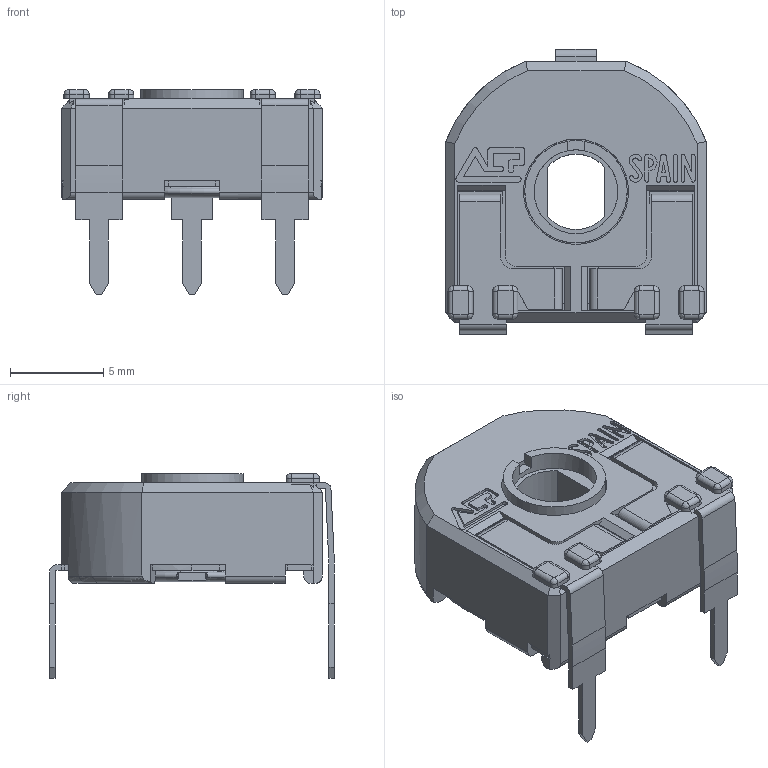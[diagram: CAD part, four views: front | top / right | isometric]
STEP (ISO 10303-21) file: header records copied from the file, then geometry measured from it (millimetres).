
FILE_DESCRIPTION(/* description */ (''),/* implementation_level */ '2;1');
FILE_NAME(/* name */ 'C:\Users\CEM\Desktop\ENVIAR\TRANSICION 3D CATALOGOS\CAR14ZV15.stp',/* time_stamp */ '2025-09-22T10:00:41+02:00',/* author */ ('CEM'),/* organization */ (''),/* preprocessor_version */ 'ST-DEVELOPER v17',/* originating_system */ 'Autodesk Inventor 2018',/* authorisation */ '');
FILE_SCHEMA (('AUTOMOTIVE_DESIGN { 1 0 10303 214 3 1 1 }'));
Length unit declared in the file: millimetre
Products named in the file (1): CAR14ZV15
Bounding box: 14 x 15.3 x 11 mm (x, y, z)
Volume: 548.7 mm3; surface area: 1552 mm2
Topology: 1 solids, 1 shells, 595 faces, 1736 edges, 1113 vertices
Faces by surface type: plane 404, cylinder 148, bspline 20, cone 14, torus 9
Full cylindrical faces by diameter (mm): 1.2 x2, 4.5 x1, 5.5 x1, 5.65 x1, 6.88 x1
Entity records: 20419 total; most frequent: CARTESIAN_POINT 3769, ORIENTED_EDGE 3472, DIRECTION 3265, EDGE_CURVE 1736, LINE 1283, VECTOR 1283, VERTEX_POINT 1113, AXIS2_PLACEMENT_3D 991
